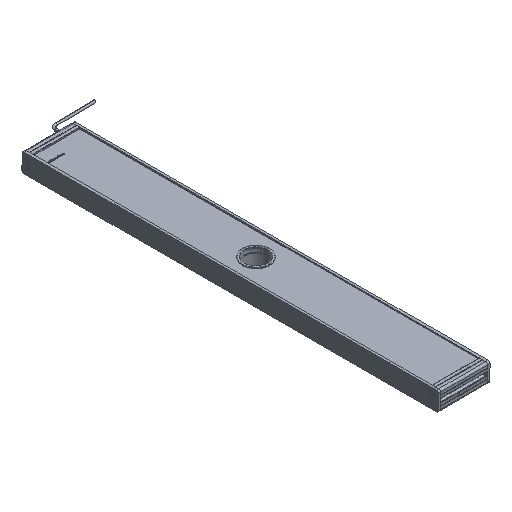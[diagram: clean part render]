
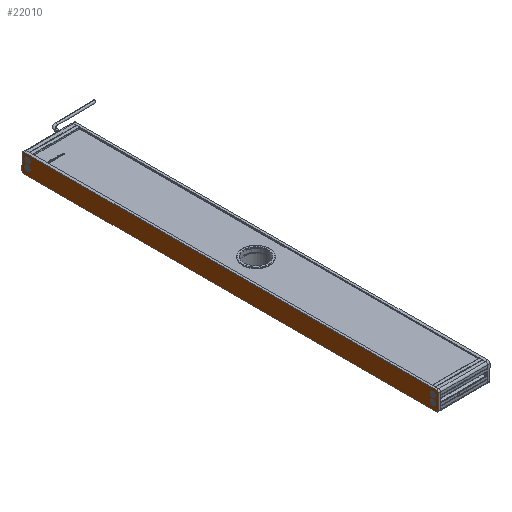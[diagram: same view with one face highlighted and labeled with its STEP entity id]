
A CAD part, isometric view. The second image highlights one B-rep face of the part: STEP entity #22010.
In plain terms, the highlighted planar face has unit normal (-1, 0, 0) as drawn and (0, 0, -1) by its records, which use the part's own axes.
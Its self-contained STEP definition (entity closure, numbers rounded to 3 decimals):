
#65 = DIRECTION ( 'NONE',  ( 0., 0., 1. ) ) ;
#345 = CARTESIAN_POINT ( 'NONE',  ( -443., -16., 0. ) ) ;
#475 = CIRCLE ( 'NONE', #10506, 5.6 ) ;
#814 = CARTESIAN_POINT ( 'NONE',  ( -425.7, -6.3, 0. ) ) ;
#1400 = CARTESIAN_POINT ( 'NONE',  ( 431.3, 8.5, 0. ) ) ;
#1915 = DIRECTION ( 'NONE',  ( 0., 0., -1. ) ) ;
#2026 = CARTESIAN_POINT ( 'NONE',  ( 439., 16., 0. ) ) ;
#2049 = DIRECTION ( 'NONE',  ( 0., 0., -1. ) ) ;
#2225 = VERTEX_POINT ( 'NONE', #14334 ) ;
#2291 = CARTESIAN_POINT ( 'NONE',  ( 425.7, -6.3, 0. ) ) ;
#2346 = ORIENTED_EDGE ( 'NONE', *, *, #16154, .F. ) ;
#2521 = DIRECTION ( 'NONE',  ( -1., 0., 0. ) ) ;
#2750 = AXIS2_PLACEMENT_3D ( 'NONE', #22147, #2049, #18032 ) ;
#3161 = VERTEX_POINT ( 'NONE', #345 ) ;
#3198 = AXIS2_PLACEMENT_3D ( 'NONE', #21415, #21548, #7362 ) ;
#3576 = DIRECTION ( 'NONE',  ( 0., 0., 1. ) ) ;
#3590 = CIRCLE ( 'NONE', #11104, 4. ) ;
#3652 = VERTEX_POINT ( 'NONE', #4897 ) ;
#3672 = EDGE_CURVE ( 'NONE', #3161, #7246, #21744, .T. ) ;
#3843 = FACE_BOUND ( 'NONE', #6054, .T. ) ;
#3852 = CIRCLE ( 'NONE', #16781, 5.6 ) ;
#3942 = DIRECTION ( 'NONE',  ( 0., -1., 0. ) ) ;
#4371 = CARTESIAN_POINT ( 'NONE',  ( -439., 20., 0. ) ) ;
#4508 = DIRECTION ( 'NONE',  ( -1., 0., 0. ) ) ;
#4610 = CARTESIAN_POINT ( 'NONE',  ( -425.7, 8.5, 0. ) ) ;
#4644 = ORIENTED_EDGE ( 'NONE', *, *, #24154, .F. ) ;
#4718 = DIRECTION ( 'NONE',  ( 0., 0., -1. ) ) ;
#4897 = CARTESIAN_POINT ( 'NONE',  ( 425.7, 8.5, 0. ) ) ;
#4966 = DIRECTION ( 'NONE',  ( 0., 0., -1. ) ) ;
#5679 = DIRECTION ( 'NONE',  ( 0., 0., 1. ) ) ;
#5697 = ORIENTED_EDGE ( 'NONE', *, *, #23660, .F. ) ;
#5994 = AXIS2_PLACEMENT_3D ( 'NONE', #22689, #4718, #16870 ) ;
#6054 = EDGE_LOOP ( 'NONE', ( #25927, #20342 ) ) ;
#6079 = DIRECTION ( 'NONE',  ( 0., 1., 0. ) ) ;
#6321 = VECTOR ( 'NONE', #4508, 1000. ) ;
#6422 = EDGE_CURVE ( 'NONE', #25663, #3161, #16113, .T. ) ;
#6451 = CIRCLE ( 'NONE', #16473, 5.6 ) ;
#6614 = CARTESIAN_POINT ( 'NONE',  ( -439., 16., 0. ) ) ;
#6669 = VERTEX_POINT ( 'NONE', #9386 ) ;
#7178 = DIRECTION ( 'NONE',  ( -1., 0., 0. ) ) ;
#7227 = FACE_BOUND ( 'NONE', #21449, .T. ) ;
#7246 = VERTEX_POINT ( 'NONE', #19864 ) ;
#7262 = CARTESIAN_POINT ( 'NONE',  ( -443., -16., 0. ) ) ;
#7362 = DIRECTION ( 'NONE',  ( -1., 0., 0. ) ) ;
#7648 = VECTOR ( 'NONE', #6079, 1000. ) ;
#7661 = CARTESIAN_POINT ( 'NONE',  ( -439., 20., 0. ) ) ;
#7883 = ORIENTED_EDGE ( 'NONE', *, *, #16082, .F. ) ;
#8029 = CARTESIAN_POINT ( 'NONE',  ( 443., -16., 0. ) ) ;
#8387 = VERTEX_POINT ( 'NONE', #7661 ) ;
#8534 = AXIS2_PLACEMENT_3D ( 'NONE', #1400, #15695, #7178 ) ;
#8669 = VERTEX_POINT ( 'NONE', #8029 ) ;
#8763 = DIRECTION ( 'NONE',  ( -1., 0., 0. ) ) ;
#8975 = DIRECTION ( 'NONE',  ( 1., 0., 0. ) ) ;
#9187 = CARTESIAN_POINT ( 'NONE',  ( -436.9, 8.5, 0. ) ) ;
#9237 = ORIENTED_EDGE ( 'NONE', *, *, #24634, .F. ) ;
#9308 = FACE_OUTER_BOUND ( 'NONE', #18002, .T. ) ;
#9386 = CARTESIAN_POINT ( 'NONE',  ( 443., 16., 0. ) ) ;
#9476 = EDGE_CURVE ( 'NONE', #6669, #20715, #3590, .T. ) ;
#9642 = VERTEX_POINT ( 'NONE', #23812 ) ;
#9684 = CARTESIAN_POINT ( 'NONE',  ( -443., 16., 0. ) ) ;
#9831 = EDGE_CURVE ( 'NONE', #8387, #25663, #25375, .T. ) ;
#10506 = AXIS2_PLACEMENT_3D ( 'NONE', #25750, #16037, #17593 ) ;
#10714 = ORIENTED_EDGE ( 'NONE', *, *, #21706, .F. ) ;
#11104 = AXIS2_PLACEMENT_3D ( 'NONE', #2026, #65, #2521 ) ;
#11753 = CARTESIAN_POINT ( 'NONE',  ( 439., 20., 0. ) ) ;
#11957 = AXIS2_PLACEMENT_3D ( 'NONE', #25602, #3576, #23505 ) ;
#12019 = CARTESIAN_POINT ( 'NONE',  ( -431.3, -6.3, 0. ) ) ;
#12476 = CARTESIAN_POINT ( 'NONE',  ( 443., -16., 0. ) ) ;
#12591 = LINE ( 'NONE', #4371, #6321 ) ;
#12746 = DIRECTION ( 'NONE',  ( 0., 0., 1. ) ) ;
#12830 = EDGE_CURVE ( 'NONE', #18161, #18960, #475, .T. ) ;
#12869 = DIRECTION ( 'NONE',  ( 0., 0., -1. ) ) ;
#12996 = CARTESIAN_POINT ( 'NONE',  ( -431.3, 8.5, 0. ) ) ;
#13096 = CIRCLE ( 'NONE', #8534, 5.6 ) ;
#13481 = ORIENTED_EDGE ( 'NONE', *, *, #9831, .F. ) ;
#13500 = PLANE ( 'NONE',  #3198 ) ;
#14334 = CARTESIAN_POINT ( 'NONE',  ( 436.9, 8.5, 0. ) ) ;
#14602 = DIRECTION ( 'NONE',  ( -1., 0., 0. ) ) ;
#15262 = CIRCLE ( 'NONE', #16123, 5.6 ) ;
#15435 = EDGE_CURVE ( 'NONE', #20244, #21077, #23990, .T. ) ;
#15647 = EDGE_CURVE ( 'NONE', #8669, #6669, #24051, .T. ) ;
#15670 = VECTOR ( 'NONE', #3942, 1000. ) ;
#15695 = DIRECTION ( 'NONE',  ( 0., 0., -1. ) ) ;
#16037 = DIRECTION ( 'NONE',  ( 0., 0., -1. ) ) ;
#16082 = EDGE_CURVE ( 'NONE', #21077, #20244, #17259, .T. ) ;
#16113 = LINE ( 'NONE', #7262, #15670 ) ;
#16123 = AXIS2_PLACEMENT_3D ( 'NONE', #12019, #1915, #17903 ) ;
#16154 = EDGE_CURVE ( 'NONE', #3652, #2225, #13096, .T. ) ;
#16473 = AXIS2_PLACEMENT_3D ( 'NONE', #23061, #4966, #8763 ) ;
#16781 = AXIS2_PLACEMENT_3D ( 'NONE', #23610, #19255, #17820 ) ;
#16870 = DIRECTION ( 'NONE',  ( -1., 0., 0. ) ) ;
#17084 = AXIS2_PLACEMENT_3D ( 'NONE', #17306, #5679, #19152 ) ;
#17170 = FACE_BOUND ( 'NONE', #22440, .T. ) ;
#17259 = CIRCLE ( 'NONE', #5994, 5.6 ) ;
#17306 = CARTESIAN_POINT ( 'NONE',  ( -439., -16., 0. ) ) ;
#17593 = DIRECTION ( 'NONE',  ( -1., 0., 0. ) ) ;
#17820 = DIRECTION ( 'NONE',  ( -1., 0., 0. ) ) ;
#17903 = DIRECTION ( 'NONE',  ( -1., 0., 0. ) ) ;
#18002 = EDGE_LOOP ( 'NONE', ( #18800, #19699, #19071, #4644, #24462, #21044, #13481, #22093 ) ) ;
#18032 = DIRECTION ( 'NONE',  ( -1., 0., 0. ) ) ;
#18161 = VERTEX_POINT ( 'NONE', #814 ) ;
#18428 = CARTESIAN_POINT ( 'NONE',  ( -439., -20., 0. ) ) ;
#18643 = DIRECTION ( 'NONE',  ( -1., 0., 0. ) ) ;
#18701 = EDGE_CURVE ( 'NONE', #18960, #18161, #15262, .T. ) ;
#18768 = VERTEX_POINT ( 'NONE', #2291 ) ;
#18797 = EDGE_CURVE ( 'NONE', #25179, #8669, #19464, .T. ) ;
#18800 = ORIENTED_EDGE ( 'NONE', *, *, #9476, .F. ) ;
#18960 = VERTEX_POINT ( 'NONE', #20627 ) ;
#19071 = ORIENTED_EDGE ( 'NONE', *, *, #18797, .F. ) ;
#19152 = DIRECTION ( 'NONE',  ( -1., 0., 0. ) ) ;
#19255 = DIRECTION ( 'NONE',  ( 0., 0., -1. ) ) ;
#19418 = FACE_BOUND ( 'NONE', #23963, .T. ) ;
#19464 = CIRCLE ( 'NONE', #11957, 4. ) ;
#19518 = AXIS2_PLACEMENT_3D ( 'NONE', #6614, #12746, #14602 ) ;
#19699 = ORIENTED_EDGE ( 'NONE', *, *, #15647, .F. ) ;
#19725 = VECTOR ( 'NONE', #8975, 1000. ) ;
#19864 = CARTESIAN_POINT ( 'NONE',  ( -439., -20., 0. ) ) ;
#20219 = AXIS2_PLACEMENT_3D ( 'NONE', #12996, #12869, #18643 ) ;
#20244 = VERTEX_POINT ( 'NONE', #4610 ) ;
#20342 = ORIENTED_EDGE ( 'NONE', *, *, #12830, .F. ) ;
#20627 = CARTESIAN_POINT ( 'NONE',  ( -436.9, -6.3, 0. ) ) ;
#20715 = VERTEX_POINT ( 'NONE', #11753 ) ;
#20795 = CIRCLE ( 'NONE', #2750, 5.6 ) ;
#21044 = ORIENTED_EDGE ( 'NONE', *, *, #6422, .F. ) ;
#21077 = VERTEX_POINT ( 'NONE', #9187 ) ;
#21415 = CARTESIAN_POINT ( 'NONE',  ( 439., 16., 0. ) ) ;
#21449 = EDGE_LOOP ( 'NONE', ( #2346, #5697 ) ) ;
#21548 = DIRECTION ( 'NONE',  ( 0., 0., -1. ) ) ;
#21706 = EDGE_CURVE ( 'NONE', #9642, #18768, #20795, .T. ) ;
#21744 = CIRCLE ( 'NONE', #17084, 4. ) ;
#22010 = ADVANCED_FACE ( 'NONE', ( #7227, #19418, #17170, #3843, #9308 ), #13500, .T. ) ;
#22093 = ORIENTED_EDGE ( 'NONE', *, *, #24327, .F. ) ;
#22147 = CARTESIAN_POINT ( 'NONE',  ( 431.3, -6.3, 0. ) ) ;
#22440 = EDGE_LOOP ( 'NONE', ( #7883, #24231 ) ) ;
#22689 = CARTESIAN_POINT ( 'NONE',  ( -431.3, 8.5, 0. ) ) ;
#23061 = CARTESIAN_POINT ( 'NONE',  ( 431.3, 8.5, 0. ) ) ;
#23405 = CARTESIAN_POINT ( 'NONE',  ( 439., -20., 0. ) ) ;
#23505 = DIRECTION ( 'NONE',  ( 1., 0., 0. ) ) ;
#23610 = CARTESIAN_POINT ( 'NONE',  ( 431.3, -6.3, 0. ) ) ;
#23660 = EDGE_CURVE ( 'NONE', #2225, #3652, #6451, .T. ) ;
#23812 = CARTESIAN_POINT ( 'NONE',  ( 436.9, -6.3, 0. ) ) ;
#23963 = EDGE_LOOP ( 'NONE', ( #9237, #10714 ) ) ;
#23990 = CIRCLE ( 'NONE', #20219, 5.6 ) ;
#24051 = LINE ( 'NONE', #12476, #7648 ) ;
#24154 = EDGE_CURVE ( 'NONE', #7246, #25179, #24860, .T. ) ;
#24231 = ORIENTED_EDGE ( 'NONE', *, *, #15435, .F. ) ;
#24327 = EDGE_CURVE ( 'NONE', #20715, #8387, #12591, .T. ) ;
#24462 = ORIENTED_EDGE ( 'NONE', *, *, #3672, .F. ) ;
#24634 = EDGE_CURVE ( 'NONE', #18768, #9642, #3852, .T. ) ;
#24860 = LINE ( 'NONE', #18428, #19725 ) ;
#25179 = VERTEX_POINT ( 'NONE', #23405 ) ;
#25375 = CIRCLE ( 'NONE', #19518, 4. ) ;
#25602 = CARTESIAN_POINT ( 'NONE',  ( 439., -16., 0. ) ) ;
#25663 = VERTEX_POINT ( 'NONE', #9684 ) ;
#25750 = CARTESIAN_POINT ( 'NONE',  ( -431.3, -6.3, 0. ) ) ;
#25927 = ORIENTED_EDGE ( 'NONE', *, *, #18701, .F. ) ;
